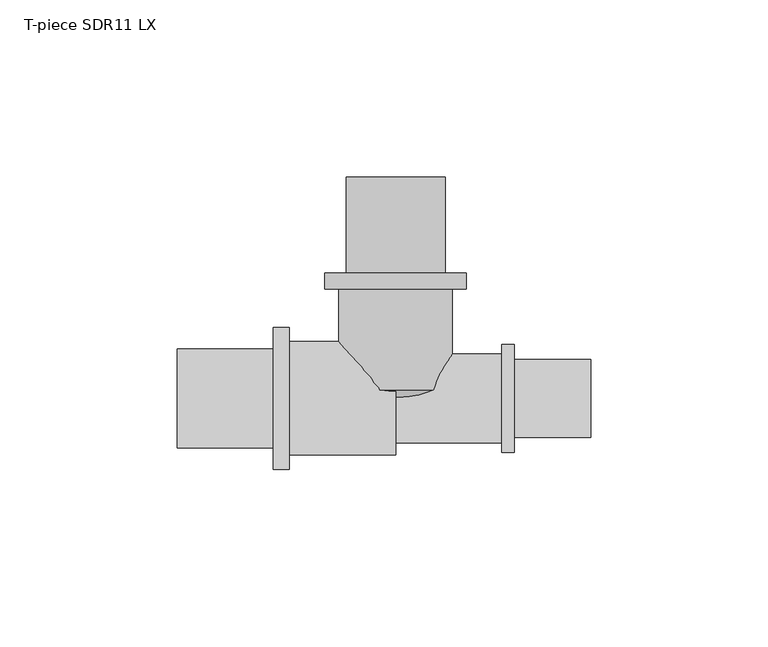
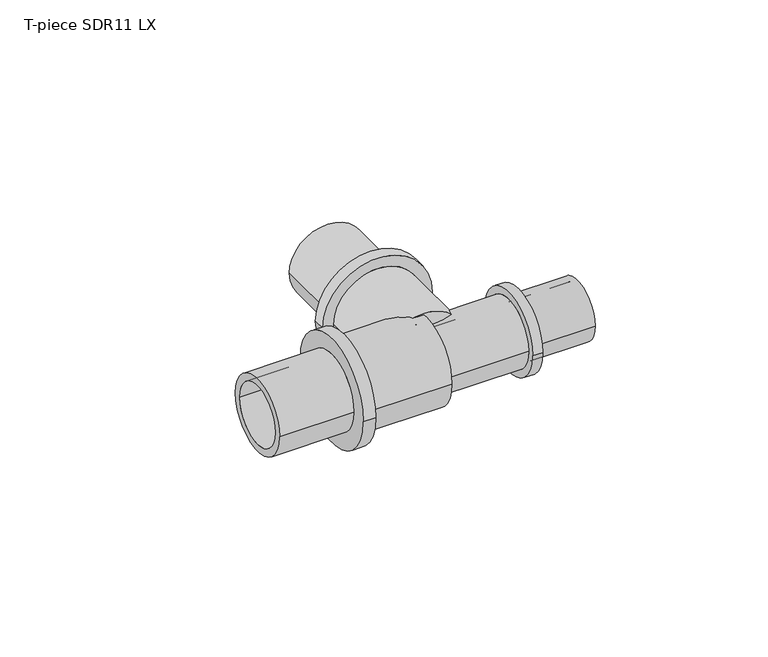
"""IFC4 building model written with IfcOpenShell, lengths in millimetres: pipe fitting geometry, T-piece SDR11 LX : T-piece LX SDR11 LX."""

from ifc_helpers import new_model, si_unit, point, frame, origin, place, context, project, spatial, polyline, circle_curve, ellipse_curve, trimmed, source, transform, mapped, element, save
from ifc_brep_helpers import plane_surface, cylinder_surface, revolved_surface, advanced_brep


def t_piece_sdr11_lx_d5a7428d(model_context):
    return source(origin(), model_context, "Body", "AdvancedBrep", [
        advanced_brep(
        [(16.0, 2.4429249, 0.0), (-16.0, 2.4429249, 0.0), (-16.0, 30.9, 0.0), (16.0, 30.9, 0.0), (11.2, 62.4, 0.0), (-11.2, 62.4, 0.0), (-11.2, 0.0, 0.0), (11.2, 0.0, 0.0), (13.95, 35.4, 0.0), (-13.95, 35.4, 0.0), (-13.95, 62.4, 0.0), (13.95, 62.4, 0.0), (20.0, 30.9, 0.0), (-20.0, 30.9, 0.0), (-20.0, 35.4, 0.0), (20.0, 35.4, 0.0)],
        [
            (0, 1, circle_curve(frame((0.0, 2.4429249, 0.0), z_axis=(0.0, 1.0, 0.0), x_axis=(-1.0, 0.0, 0.0)), 16.0)),
            (1, 2),
            (2, 3, circle_curve(frame((0.0, 30.9, 0.0), z_axis=(0.0, -1.0, 0.0), x_axis=(-1.0, 0.0, 0.0)), 16.0)),
            (3, 0),
            (4, 5, circle_curve(frame((0.0, 62.4, 0.0), z_axis=(0.0, 1.0, 0.0), x_axis=(-1.0, 0.0, 0.0)), 11.2)),
            (5, 6),
            (6, 7, circle_curve(frame((0.0, 0.0, 0.0), z_axis=(0.0, -1.0, 0.0), x_axis=(-1.0, 0.0, 0.0)), 11.2)),
            (7, 4),
            (8, 9, circle_curve(frame((0.0, 35.4, 0.0), z_axis=(0.0, 1.0, 0.0), x_axis=(-1.0, 0.0, 0.0)), 13.95)),
            (9, 10),
            (10, 11, circle_curve(frame((0.0, 62.4, 0.0), z_axis=(0.0, -1.0, 0.0), x_axis=(-1.0, 0.0, 0.0)), 13.95)),
            (11, 8),
            (12, 13, circle_curve(frame((0.0, 30.9, 0.0), z_axis=(0.0, 1.0, 0.0), x_axis=(-1.0, 0.0, 0.0)), 20.0)),
            (13, 14),
            (14, 15, circle_curve(frame((0.0, 35.4, 0.0), z_axis=(0.0, -1.0, 0.0), x_axis=(-1.0, 0.0, 0.0)), 20.0)),
            (15, 12),
            (12, 13, circle_curve(frame((0.0, 30.9, 0.0), z_axis=(0.0, -1.0, 0.0), x_axis=(1.0, 0.0, 0.0)), 20.0)),
            (2, 3, circle_curve(frame((0.0, 30.9, 0.0), z_axis=(0.0, 1.0, 0.0), x_axis=(1.0, 0.0, 0.0)), 16.0)),
            (1, 0, circle_curve(frame((0.0, 2.4429249, 0.0), z_axis=(0.0, 1.0, 0.0), x_axis=(1.0, 0.0, 0.0)), 16.0)),
            (5, 4, circle_curve(frame((0.0, 62.4, 0.0), z_axis=(0.0, 1.0, 0.0), x_axis=(1.0, 0.0, 0.0)), 11.2)),
            (7, 6, circle_curve(frame((0.0, 0.0, 0.0), z_axis=(0.0, -1.0, 0.0), x_axis=(1.0, 0.0, 0.0)), 11.2)),
            (10, 11, circle_curve(frame((0.0, 62.4, 0.0), z_axis=(0.0, 1.0, 0.0), x_axis=(1.0, 0.0, 0.0)), 13.95)),
            (9, 8, circle_curve(frame((0.0, 35.4, 0.0), z_axis=(0.0, 1.0, 0.0), x_axis=(1.0, 0.0, 0.0)), 13.95)),
            (14, 15, circle_curve(frame((0.0, 35.4, 0.0), z_axis=(0.0, 1.0, 0.0), x_axis=(1.0, 0.0, 0.0)), 20.0)),
            (6, 1, circle_curve(frame((-6.4462802, 15.2775046, 0.0), z_axis=(0.0, 0.0, -1.0), x_axis=(0.0, -1.0, 0.0)), 16.0)),
            (0, 7, circle_curve(frame((6.4462802, 15.2775046, 0.0), z_axis=(0.0, 0.0, -1.0), x_axis=(0.0, -1.0, 0.0)), 16.0)),
        ],
        [
            cylinder_surface(frame((0.0, 0.0, 0.0), z_axis=(0.0, -1.0, 0.0), x_axis=(-1.0, 0.0, 0.0)), 16.0),
            revolved_surface(polyline([(-11.2, 0.0, 0.0), (-11.2, 62.4, 0.0)]), (0.0, 0.0, 0.0), (0.0, -1.0, 0.0)),
            cylinder_surface(frame((0.0, 0.0, 0.0), z_axis=(0.0, -1.0, 0.0), x_axis=(-1.0, 0.0, 0.0)), 13.95),
            cylinder_surface(frame((0.0, 0.0, 0.0), z_axis=(0.0, -1.0, 0.0), x_axis=(-1.0, 0.0, 0.0)), 20.0),
            plane_surface(frame((0.0, 30.9, 0.0), z_axis=(0.0, -1.0, 0.0), x_axis=(1.0, 0.0, 0.0))),
            cylinder_surface(frame((0.0, 0.0, 0.0), z_axis=(0.0, -1.0, 0.0), x_axis=(1.0, 0.0, 0.0)), 16.0),
            revolved_surface(polyline([(11.2, 0.0, 0.0), (11.2, 62.4, 0.0)]), (0.0, 0.0, 0.0), (0.0, -1.0, 0.0)),
            plane_surface(frame((0.0, 62.4, 0.0), z_axis=(0.0, 1.0, 0.0), x_axis=(1.0, 0.0, 0.0))),
            cylinder_surface(frame((0.0, 0.0, 0.0), z_axis=(0.0, -1.0, 0.0), x_axis=(1.0, 0.0, 0.0)), 13.95),
            plane_surface(frame((0.0, 35.4, 0.0), z_axis=(0.0, 1.0, 0.0), x_axis=(1.0, 0.0, 0.0))),
            cylinder_surface(frame((0.0, 0.0, 0.0), z_axis=(0.0, -1.0, 0.0), x_axis=(1.0, 0.0, 0.0)), 20.0),
            revolved_surface(trimmed(ellipse_curve(frame((-6.4462802, 15.2775046, 0.0), z_axis=(0.0, 0.0, 1.0), x_axis=(0.0, -1.0, 0.0)), 16.0, 16.0), [point((-16.0, 2.4429249, 0.0))], [point((-11.2, 0.0, 0.0))], True, "CARTESIAN"), (0.0, 0.0, 0.0), (0.0, -1.0, 0.0)),
            revolved_surface(trimmed(ellipse_curve(frame((6.4462802, 15.2775046, 0.0), z_axis=(0.0, 0.0, -1.0), x_axis=(0.0, -1.0, 0.0)), 16.0, 16.0), [point((16.0, 2.4429249, 0.0))], [point((11.2, 0.0, 0.0))], True, "CARTESIAN"), (0.0, 0.0, 0.0), (0.0, -1.0, 0.0)),
        ],
        [
            (0, [[1, 2, 3, 4]]),
            (1, [[5, 6, 7, 8]]),
            (2, [[9, 10, 11, 12]]),
            (3, [[13, 14, 15, 16]]),
            (4, [[17, -13], [18, -3]]),
            (5, [[19, -4, -18, -2]]),
            (6, [[20, -8, 21, -6]]),
            (7, [[22, -11], [-20, -5]]),
            (8, [[23, -12, -22, -10]]),
            (9, [[24, -15], [-23, -9]]),
            (10, [[-17, -16, -24, -14]]),
            (11, [[-7, 25, -1, 26]]),
            (12, [[-21, -26, -19, -25]]),
        ],
    ),
        advanced_brep(
        [(29.9, 12.5, 0.0), (29.9, -12.5, 0.0), (0.0, -12.5, 0.0), (0.0, 12.5, 0.0), (0.0, 8.9, 0.0), (0.0, -8.9, 0.0), (55.0, -8.9, 0.0), (55.0, 8.9, 0.0), (55.0, 11.0, 0.0), (55.0, -11.0, 0.0), (33.5, -11.0, 0.0), (33.5, 11.0, 0.0), (33.5, 15.25, 0.0), (33.5, -15.25, 0.0), (29.9, -15.25, 0.0), (29.9, 15.25, 0.0)],
        [
            (0, 1, circle_curve(frame((29.9, 0.0, 0.0), z_axis=(-1.0, 0.0, 0.0), x_axis=(0.0, -1.0, 0.0)), 12.5)),
            (1, 2),
            (2, 3, circle_curve(frame((0.0, 0.0, 0.0), z_axis=(1.0, 0.0, 0.0), x_axis=(0.0, -1.0, 0.0)), 12.5)),
            (3, 0),
            (4, 5, circle_curve(frame((0.0, 0.0, 0.0), z_axis=(-1.0, 0.0, 0.0), x_axis=(0.0, -1.0, 0.0)), 8.9)),
            (5, 6),
            (6, 7, circle_curve(frame((55.0, 0.0, 0.0), z_axis=(1.0, 0.0, 0.0), x_axis=(0.0, -1.0, 0.0)), 8.9)),
            (7, 4),
            (8, 9, circle_curve(frame((55.0, 0.0, 0.0), z_axis=(-1.0, 0.0, 0.0), x_axis=(0.0, -1.0, 0.0)), 11.0)),
            (9, 10),
            (10, 11, circle_curve(frame((33.5, 0.0, 0.0), z_axis=(1.0, 0.0, 0.0), x_axis=(0.0, -1.0, 0.0)), 11.0)),
            (11, 8),
            (12, 13, circle_curve(frame((33.5, 0.0, 0.0), z_axis=(-1.0, 0.0, 0.0), x_axis=(0.0, -1.0, 0.0)), 15.25)),
            (13, 14),
            (14, 15, circle_curve(frame((29.9, 0.0, 0.0), z_axis=(1.0, 0.0, 0.0), x_axis=(0.0, -1.0, 0.0)), 15.25)),
            (15, 12),
            (14, 15, circle_curve(frame((29.9, 0.0, 0.0), z_axis=(-1.0, 0.0, 0.0), x_axis=(0.0, 1.0, 0.0)), 15.25)),
            (0, 1, circle_curve(frame((29.9, 0.0, 0.0), z_axis=(1.0, 0.0, 0.0), x_axis=(0.0, 1.0, 0.0)), 12.5)),
            (3, 2, circle_curve(frame((0.0, 0.0, 0.0), z_axis=(1.0, 0.0, 0.0), x_axis=(0.0, 1.0, 0.0)), 12.5)),
            (4, 5, circle_curve(frame((0.0, 0.0, 0.0), z_axis=(1.0, 0.0, 0.0), x_axis=(0.0, 1.0, 0.0)), 8.9)),
            (7, 6, circle_curve(frame((55.0, 0.0, 0.0), z_axis=(1.0, 0.0, 0.0), x_axis=(0.0, 1.0, 0.0)), 8.9)),
            (8, 9, circle_curve(frame((55.0, 0.0, 0.0), z_axis=(1.0, 0.0, 0.0), x_axis=(0.0, 1.0, 0.0)), 11.0)),
            (11, 10, circle_curve(frame((33.5, 0.0, 0.0), z_axis=(1.0, 0.0, 0.0), x_axis=(0.0, 1.0, 0.0)), 11.0)),
            (12, 13, circle_curve(frame((33.5, 0.0, 0.0), z_axis=(1.0, 0.0, 0.0), x_axis=(0.0, 1.0, 0.0)), 15.25)),
        ],
        [
            cylinder_surface(frame((0.0, 0.0, 0.0), z_axis=(1.0, 0.0, 0.0), x_axis=(0.0, -1.0, 0.0)), 12.5),
            revolved_surface(polyline([(55.0, -8.9, 0.0), (0.0, -8.9, 0.0)]), (0.0, 0.0, 0.0), (1.0, 0.0, 0.0)),
            cylinder_surface(frame((0.0, 0.0, 0.0), z_axis=(1.0, 0.0, 0.0), x_axis=(0.0, -1.0, 0.0)), 11.0),
            cylinder_surface(frame((0.0, 0.0, 0.0), z_axis=(1.0, 0.0, 0.0), x_axis=(0.0, -1.0, 0.0)), 15.25),
            plane_surface(frame((29.9, 0.0, 0.0), z_axis=(-1.0, 0.0, 0.0), x_axis=(0.0, 1.0, 0.0))),
            cylinder_surface(frame((0.0, 0.0, 0.0), z_axis=(1.0, 0.0, 0.0), x_axis=(0.0, 1.0, 0.0)), 12.5),
            plane_surface(frame((0.0, 0.0, 0.0), z_axis=(-1.0, 0.0, 0.0), x_axis=(0.0, 1.0, 0.0))),
            revolved_surface(polyline([(55.0, 8.9, 0.0), (0.0, 8.9, 0.0)]), (0.0, 0.0, 0.0), (1.0, 0.0, 0.0)),
            plane_surface(frame((55.0, 0.0, 0.0), z_axis=(1.0, 0.0, 0.0), x_axis=(0.0, 1.0, 0.0))),
            cylinder_surface(frame((0.0, 0.0, 0.0), z_axis=(1.0, 0.0, 0.0), x_axis=(0.0, 1.0, 0.0)), 11.0),
            plane_surface(frame((33.5, 0.0, 0.0), z_axis=(1.0, 0.0, 0.0), x_axis=(0.0, 1.0, 0.0))),
            cylinder_surface(frame((0.0, 0.0, 0.0), z_axis=(1.0, 0.0, 0.0), x_axis=(0.0, 1.0, 0.0)), 15.25),
        ],
        [
            (0, [[1, 2, 3, 4]]),
            (1, [[5, 6, 7, 8]]),
            (2, [[9, 10, 11, 12]]),
            (3, [[13, 14, 15, 16]]),
            (4, [[17, -15], [18, -1]]),
            (5, [[-18, -4, 19, -2]]),
            (6, [[-19, -3], [20, -5]]),
            (7, [[-20, -8, 21, -6]]),
            (8, [[22, -9], [-21, -7]]),
            (9, [[-22, -12, 23, -10]]),
            (10, [[24, -13], [-23, -11]]),
            (11, [[-24, -16, -17, -14]]),
        ],
    ),
        advanced_brep(
        [(0.0, 16.0, 0.0), (0.0, -16.0, 0.0), (-30.0, -16.0, 0.0), (-30.0, 16.0, 0.0), (-61.5, 11.2, 0.0), (-61.5, -11.2, 0.0), (0.0, -11.2, 0.0), (0.0, 11.2, 0.0), (-34.5, 13.95, 0.0), (-34.5, -13.95, 0.0), (-61.5, -13.95, 0.0), (-61.5, 13.95, 0.0), (-30.0, 20.0, 0.0), (-30.0, -20.0, 0.0), (-34.5, -20.0, 0.0), (-34.5, 20.0, 0.0)],
        [
            (0, 1, circle_curve(frame((0.0, 0.0, 0.0), z_axis=(-1.0, 0.0, 0.0), x_axis=(0.0, -1.0, 0.0)), 16.0)),
            (1, 2),
            (2, 3, circle_curve(frame((-30.0, 0.0, 0.0), z_axis=(1.0, 0.0, 0.0), x_axis=(0.0, -1.0, 0.0)), 16.0)),
            (3, 0),
            (4, 5, circle_curve(frame((-61.5, 0.0, 0.0), z_axis=(-1.0, 0.0, 0.0), x_axis=(0.0, -1.0, 0.0)), 11.2)),
            (5, 6),
            (6, 7, circle_curve(frame((0.0, 0.0, 0.0), z_axis=(1.0, 0.0, 0.0), x_axis=(0.0, -1.0, 0.0)), 11.2)),
            (7, 4),
            (8, 9, circle_curve(frame((-34.5, 0.0, 0.0), z_axis=(-1.0, 0.0, 0.0), x_axis=(0.0, -1.0, 0.0)), 13.95)),
            (9, 10),
            (10, 11, circle_curve(frame((-61.5, 0.0, 0.0), z_axis=(1.0, 0.0, 0.0), x_axis=(0.0, -1.0, 0.0)), 13.95)),
            (11, 8),
            (12, 13, circle_curve(frame((-30.0, 0.0, 0.0), z_axis=(-1.0, 0.0, 0.0), x_axis=(0.0, -1.0, 0.0)), 20.0)),
            (13, 14),
            (14, 15, circle_curve(frame((-34.5, 0.0, 0.0), z_axis=(1.0, 0.0, 0.0), x_axis=(0.0, -1.0, 0.0)), 20.0)),
            (15, 12),
            (12, 13, circle_curve(frame((-30.0, 0.0, 0.0), z_axis=(1.0, 0.0, 0.0), x_axis=(0.0, 1.0, 0.0)), 20.0)),
            (2, 3, circle_curve(frame((-30.0, 0.0, 0.0), z_axis=(-1.0, 0.0, 0.0), x_axis=(0.0, 1.0, 0.0)), 16.0)),
            (1, 0, circle_curve(frame((0.0, 0.0, 0.0), z_axis=(-1.0, 0.0, 0.0), x_axis=(0.0, 1.0, 0.0)), 16.0)),
            (6, 7, circle_curve(frame((0.0, 0.0, 0.0), z_axis=(-1.0, 0.0, 0.0), x_axis=(0.0, 1.0, 0.0)), 11.2)),
            (5, 4, circle_curve(frame((-61.5, 0.0, 0.0), z_axis=(-1.0, 0.0, 0.0), x_axis=(0.0, 1.0, 0.0)), 11.2)),
            (10, 11, circle_curve(frame((-61.5, 0.0, 0.0), z_axis=(-1.0, 0.0, 0.0), x_axis=(0.0, 1.0, 0.0)), 13.95)),
            (9, 8, circle_curve(frame((-34.5, 0.0, 0.0), z_axis=(-1.0, 0.0, 0.0), x_axis=(0.0, 1.0, 0.0)), 13.95)),
            (14, 15, circle_curve(frame((-34.5, 0.0, 0.0), z_axis=(-1.0, 0.0, 0.0), x_axis=(0.0, 1.0, 0.0)), 20.0)),
        ],
        [
            cylinder_surface(frame((0.0, 0.0, 0.0), z_axis=(1.0, 0.0, 0.0), x_axis=(0.0, -1.0, 0.0)), 16.0),
            revolved_surface(polyline([(0.0, -11.2, 0.0), (-61.5, -11.2, 0.0)]), (0.0, 0.0, 0.0), (1.0, 0.0, 0.0)),
            cylinder_surface(frame((0.0, 0.0, 0.0), z_axis=(1.0, 0.0, 0.0), x_axis=(0.0, -1.0, 0.0)), 13.95),
            cylinder_surface(frame((0.0, 0.0, 0.0), z_axis=(1.0, 0.0, 0.0), x_axis=(0.0, -1.0, 0.0)), 20.0),
            plane_surface(frame((-30.0, 0.0, 0.0), z_axis=(1.0, 0.0, 0.0), x_axis=(0.0, 1.0, 0.0))),
            cylinder_surface(frame((0.0, 0.0, 0.0), z_axis=(1.0, 0.0, 0.0), x_axis=(0.0, 1.0, 0.0)), 16.0),
            plane_surface(frame((0.0, 0.0, 0.0), z_axis=(1.0, 0.0, 0.0), x_axis=(0.0, 1.0, 0.0))),
            revolved_surface(polyline([(0.0, 11.2, 0.0), (-61.5, 11.2, 0.0)]), (0.0, 0.0, 0.0), (1.0, 0.0, 0.0)),
            plane_surface(frame((-61.5, 0.0, 0.0), z_axis=(-1.0, 0.0, 0.0), x_axis=(0.0, 1.0, 0.0))),
            cylinder_surface(frame((0.0, 0.0, 0.0), z_axis=(1.0, 0.0, 0.0), x_axis=(0.0, 1.0, 0.0)), 13.95),
            plane_surface(frame((-34.5, 0.0, 0.0), z_axis=(-1.0, 0.0, 0.0), x_axis=(0.0, 1.0, 0.0))),
            cylinder_surface(frame((0.0, 0.0, 0.0), z_axis=(1.0, 0.0, 0.0), x_axis=(0.0, 1.0, 0.0)), 20.0),
        ],
        [
            (0, [[1, 2, 3, 4]]),
            (1, [[5, 6, 7, 8]]),
            (2, [[9, 10, 11, 12]]),
            (3, [[13, 14, 15, 16]]),
            (4, [[17, -13], [18, -3]]),
            (5, [[19, -4, -18, -2]]),
            (6, [[-19, -1], [20, -7]]),
            (7, [[21, -8, -20, -6]]),
            (8, [[22, -11], [-21, -5]]),
            (9, [[23, -12, -22, -10]]),
            (10, [[24, -15], [-23, -9]]),
            (11, [[-17, -16, -24, -14]]),
        ],
    ),
    ])


if __name__ == "__main__":
    model = new_model("IFC4")
    model_context = context("Model", 3, world=origin())
    ifc_project = project(units=[si_unit("LENGTHUNIT", "METRE", prefix="MILLI")], contexts=[model_context])
    site = spatial("IfcSite", under=ifc_project)
    building = spatial("IfcBuilding", under=site)
    placement = place(None, origin())
    t_piece_sdr11_lx_shape = t_piece_sdr11_lx_d5a7428d(model_context)
    element("IfcPipeFitting", 1, ObjectType="T-piece SDR11 LX : T-piece LX SDR11 LX", at=placement, inside=building, context=model_context, shape_type="MappedRepresentation", body=[
        mapped(t_piece_sdr11_lx_shape, transform((0.0, 0.0, 0.0), x_axis=(1.0, 0.0, 0.0), y_axis=(0.0, 1.0, 0.0), z_axis=(0.0, 0.0, 1.0))),
    ])
    save(model, "model.ifc")
